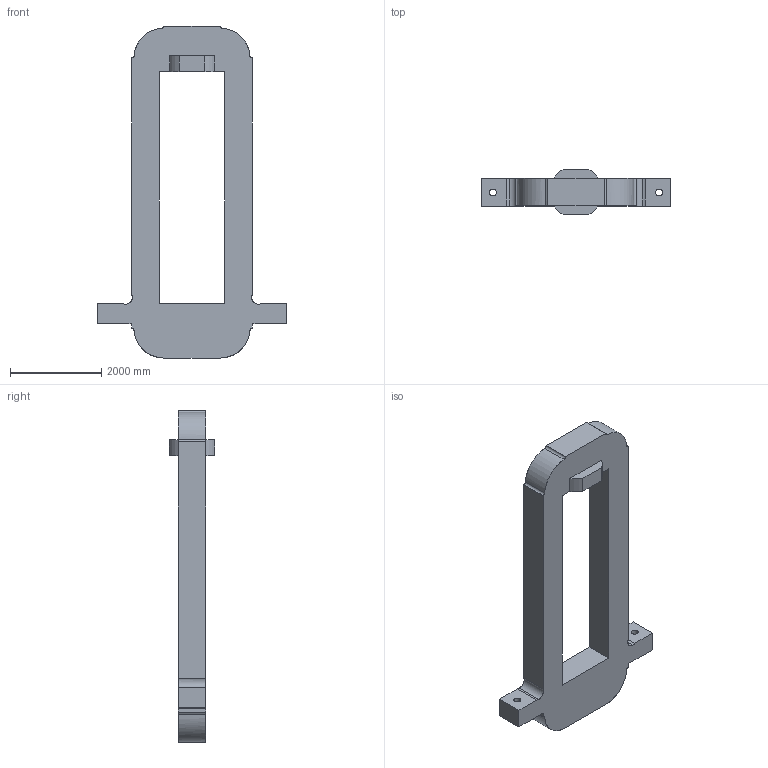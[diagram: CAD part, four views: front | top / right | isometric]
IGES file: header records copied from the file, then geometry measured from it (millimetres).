
Start section: Comment
Global section: file name: MHPA01.igs; native system:  By UGS Corp.; preprocessor: XPlus GENERIC/IGES 3.0; author: Author; organization: Title; date: 20081127.132511; units: inch
Bounding box: 4150 x 1000 x 7295 mm (x, y, z)
Surface area: 46038213.3 mm2 (no closed solid volume)
Topology: 0 solids, 0 shells, 52 faces, 300 edges, 300 vertices
Faces by surface type: bspline 52
